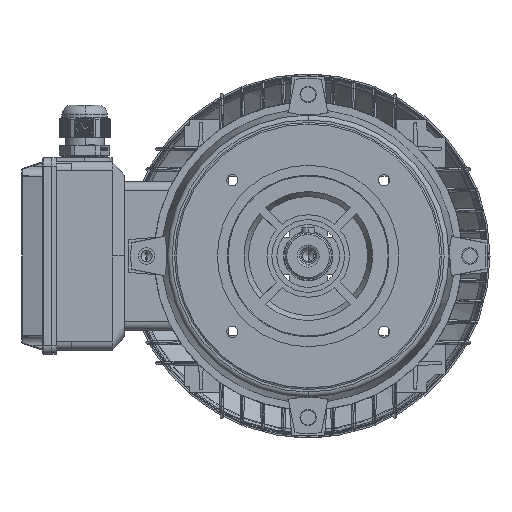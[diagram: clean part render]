
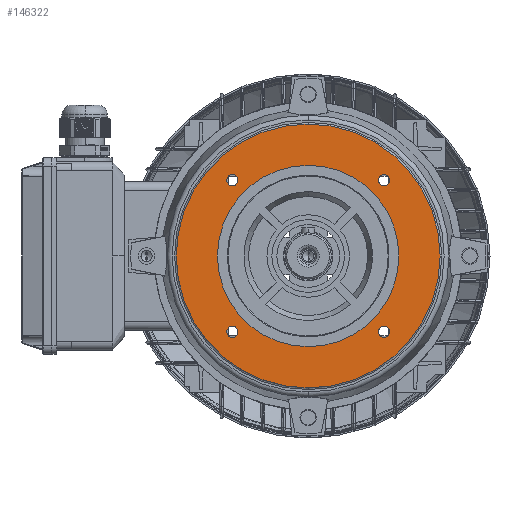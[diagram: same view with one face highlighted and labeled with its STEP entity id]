
A CAD part, left-side view. The second image highlights one B-rep face of the part: STEP entity #146322.
In plain terms, the highlighted planar face has unit normal (-1, 0, 0).
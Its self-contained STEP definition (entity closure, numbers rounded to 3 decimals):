
#116263 = CIRCLE ( 'NONE', #116538, 3.4 ) ;
#116538 = AXIS2_PLACEMENT_3D ( 'NONE', #116540, #116539, #116544 ) ;
#116539 = DIRECTION ( 'NONE',  ( 1., 0., 0. ) ) ;
#116540 = CARTESIAN_POINT ( 'NONE',  ( -16., -45.962, -45.962 ) ) ;
#116544 = DIRECTION ( 'NONE',  ( 0., 0., -1. ) ) ;
#117060 = CARTESIAN_POINT ( 'NONE',  ( -16., 45.962, 42.562 ) ) ;
#117109 = CARTESIAN_POINT ( 'NONE',  ( -16., -45.962, 49.362 ) ) ;
#117127 = CARTESIAN_POINT ( 'NONE',  ( -16., 45.962, 49.362 ) ) ;
#117176 = DIRECTION ( 'NONE',  ( 0., 0., -1. ) ) ;
#117177 = DIRECTION ( 'NONE',  ( 1., 0., 0. ) ) ;
#117178 = CARTESIAN_POINT ( 'NONE',  ( -16., 45.962, 45.962 ) ) ;
#117179 = AXIS2_PLACEMENT_3D ( 'NONE', #117178, #117177, #117176 ) ;
#117183 = CIRCLE ( 'NONE', #117179, 3.4 ) ;
#117199 = CARTESIAN_POINT ( 'NONE',  ( -16., -45.962, 45.962 ) ) ;
#117201 = CARTESIAN_POINT ( 'NONE',  ( -16., -45.962, 42.562 ) ) ;
#117204 = CIRCLE ( 'NONE', #117256, 3.4 ) ;
#117254 = DIRECTION ( 'NONE',  ( 0., 0., -1. ) ) ;
#117255 = DIRECTION ( 'NONE',  ( 1., 0., 0. ) ) ;
#117256 = AXIS2_PLACEMENT_3D ( 'NONE', #117199, #117255, #117254 ) ;
#117422 = CARTESIAN_POINT ( 'NONE',  ( -16., -45.962, -49.362 ) ) ;
#117428 = CARTESIAN_POINT ( 'NONE',  ( -16., -45.962, -42.562 ) ) ;
#118071 = CARTESIAN_POINT ( 'NONE',  ( -16., 45.962, -45.962 ) ) ;
#118072 = CIRCLE ( 'NONE', #118126, 3.4 ) ;
#118118 = CARTESIAN_POINT ( 'NONE',  ( -16., 45.962, -42.562 ) ) ;
#118120 = DIRECTION ( 'NONE',  ( 0., 0., -1. ) ) ;
#118121 = DIRECTION ( 'NONE',  ( 1., 0., 0. ) ) ;
#118126 = AXIS2_PLACEMENT_3D ( 'NONE', #118071, #118121, #118120 ) ;
#118279 = CARTESIAN_POINT ( 'NONE',  ( -16., 45.962, -49.362 ) ) ;
#118669 = CARTESIAN_POINT ( 'NONE',  ( -16., 0., 55. ) ) ;
#118677 = CARTESIAN_POINT ( 'NONE',  ( -16., 0., -55. ) ) ;
#118682 = DIRECTION ( 'NONE',  ( 0., 0., 1. ) ) ;
#118683 = DIRECTION ( 'NONE',  ( -1., 0., 0. ) ) ;
#118684 = CARTESIAN_POINT ( 'NONE',  ( -16., 0., 0. ) ) ;
#118694 = CIRCLE ( 'NONE', #118705, 55. ) ;
#118705 = AXIS2_PLACEMENT_3D ( 'NONE', #118684, #118683, #118682 ) ;
#118758 = CARTESIAN_POINT ( 'NONE',  ( -16., 0., -80. ) ) ;
#118777 = DIRECTION ( 'NONE',  ( 0., 0., 1. ) ) ;
#118778 = DIRECTION ( 'NONE',  ( -1., 0., 0. ) ) ;
#118779 = CARTESIAN_POINT ( 'NONE',  ( -16., 0., 0. ) ) ;
#118780 = AXIS2_PLACEMENT_3D ( 'NONE', #118779, #118778, #118777 ) ;
#118788 = CIRCLE ( 'NONE', #118780, 80. ) ;
#118801 = CARTESIAN_POINT ( 'NONE',  ( -16., 0., 80. ) ) ;
#133873 = CIRCLE ( 'NONE', #133877, 3.4 ) ;
#133877 = AXIS2_PLACEMENT_3D ( 'NONE', #133878, #133936, #133935 ) ;
#133878 = CARTESIAN_POINT ( 'NONE',  ( -16., 45.962, 45.962 ) ) ;
#133928 = DIRECTION ( 'NONE',  ( 0., 0., 1. ) ) ;
#133929 = DIRECTION ( 'NONE',  ( -1., 0., 0. ) ) ;
#133930 = CARTESIAN_POINT ( 'NONE',  ( -16., 0., 0. ) ) ;
#133931 = AXIS2_PLACEMENT_3D ( 'NONE', #133930, #133929, #133928 ) ;
#133935 = DIRECTION ( 'NONE',  ( 0., 0., -1. ) ) ;
#133936 = DIRECTION ( 'NONE',  ( 1., 0., 0. ) ) ;
#133937 = CIRCLE ( 'NONE', #133931, 80. ) ;
#133944 = FACE_BOUND ( 'NONE', #146315, .T. ) ;
#133945 = FACE_BOUND ( 'NONE', #146300, .T. ) ;
#133952 = FACE_OUTER_BOUND ( 'NONE', #146337, .T. ) ;
#133954 = FACE_BOUND ( 'NONE', #146335, .T. ) ;
#133955 = FACE_BOUND ( 'NONE', #146309, .T. ) ;
#133957 = PLANE ( 'NONE',  #133959 ) ;
#133958 = FACE_BOUND ( 'NONE', #146316, .T. ) ;
#133959 = AXIS2_PLACEMENT_3D ( 'NONE', #134018, #134017, #134016 ) ;
#133989 = CARTESIAN_POINT ( 'NONE',  ( -16., -45.962, -45.962 ) ) ;
#133994 = DIRECTION ( 'NONE',  ( 0., 0., -1. ) ) ;
#133995 = DIRECTION ( 'NONE',  ( 1., 0., 0. ) ) ;
#133998 = AXIS2_PLACEMENT_3D ( 'NONE', #133989, #133995, #133994 ) ;
#133999 = DIRECTION ( 'NONE',  ( 0., 0., -1. ) ) ;
#134000 = DIRECTION ( 'NONE',  ( 1., 0., 0. ) ) ;
#134001 = CARTESIAN_POINT ( 'NONE',  ( -16., -45.962, 45.962 ) ) ;
#134002 = AXIS2_PLACEMENT_3D ( 'NONE', #134001, #134000, #133999 ) ;
#134004 = CIRCLE ( 'NONE', #134002, 3.4 ) ;
#134007 = CIRCLE ( 'NONE', #133998, 3.4 ) ;
#134016 = DIRECTION ( 'NONE',  ( 0., 0., -1. ) ) ;
#134017 = DIRECTION ( 'NONE',  ( 1., 0., 0. ) ) ;
#134018 = CARTESIAN_POINT ( 'NONE',  ( -16., 55., 0. ) ) ;
#134061 = AXIS2_PLACEMENT_3D ( 'NONE', #134114, #134113, #134112 ) ;
#134067 = CIRCLE ( 'NONE', #134061, 3.4 ) ;
#134112 = DIRECTION ( 'NONE',  ( 0., 0., -1. ) ) ;
#134113 = DIRECTION ( 'NONE',  ( 1., 0., 0. ) ) ;
#134114 = CARTESIAN_POINT ( 'NONE',  ( -16., 45.962, -45.962 ) ) ;
#134115 = CARTESIAN_POINT ( 'NONE',  ( -16., 0., 0. ) ) ;
#134174 = DIRECTION ( 'NONE',  ( 0., 0., 1. ) ) ;
#134175 = DIRECTION ( 'NONE',  ( -1., 0., 0. ) ) ;
#134177 = AXIS2_PLACEMENT_3D ( 'NONE', #134115, #134175, #134174 ) ;
#134180 = CIRCLE ( 'NONE', #134177, 55. ) ;
#142532 = VERTEX_POINT ( 'NONE', #117127 ) ;
#142533 = VERTEX_POINT ( 'NONE', #117060 ) ;
#142538 = VERTEX_POINT ( 'NONE', #117109 ) ;
#142565 = EDGE_CURVE ( 'NONE', #142532, #142533, #117183, .T. ) ;
#142588 = EDGE_CURVE ( 'NONE', #142538, #142591, #117204, .T. ) ;
#142591 = VERTEX_POINT ( 'NONE', #117201 ) ;
#142647 = EDGE_CURVE ( 'NONE', #142653, #142654, #116263, .T. ) ;
#142653 = VERTEX_POINT ( 'NONE', #117428 ) ;
#142654 = VERTEX_POINT ( 'NONE', #117422 ) ;
#142954 = EDGE_CURVE ( 'NONE', #142959, #143028, #118072, .T. ) ;
#142959 = VERTEX_POINT ( 'NONE', #118118 ) ;
#143028 = VERTEX_POINT ( 'NONE', #118279 ) ;
#143208 = VERTEX_POINT ( 'NONE', #118669 ) ;
#143209 = VERTEX_POINT ( 'NONE', #118677 ) ;
#143227 = EDGE_CURVE ( 'NONE', #143208, #143209, #118694, .T. ) ;
#143268 = VERTEX_POINT ( 'NONE', #118758 ) ;
#143279 = EDGE_CURVE ( 'NONE', #143281, #143268, #118788, .T. ) ;
#143281 = VERTEX_POINT ( 'NONE', #118801 ) ;
#146300 = EDGE_LOOP ( 'NONE', ( #146376, #146423 ) ) ;
#146305 = EDGE_CURVE ( 'NONE', #142533, #142532, #133873, .T. ) ;
#146306 = ORIENTED_EDGE ( 'NONE', *, *, #142588, .T. ) ;
#146308 = EDGE_CURVE ( 'NONE', #143268, #143281, #133937, .T. ) ;
#146309 = EDGE_LOOP ( 'NONE', ( #146327, #146361 ) ) ;
#146314 = ORIENTED_EDGE ( 'NONE', *, *, #142565, .T. ) ;
#146315 = EDGE_LOOP ( 'NONE', ( #146326, #146314 ) ) ;
#146316 = EDGE_LOOP ( 'NONE', ( #146334, #146306 ) ) ;
#146322 = ADVANCED_FACE ( 'NONE', ( #133944, #133958, #133955, #133954, #133952, #133945 ), #133957, .F. ) ;
#146326 = ORIENTED_EDGE ( 'NONE', *, *, #146305, .T. ) ;
#146327 = ORIENTED_EDGE ( 'NONE', *, *, #146333, .T. ) ;
#146330 = EDGE_CURVE ( 'NONE', #142591, #142538, #134004, .T. ) ;
#146333 = EDGE_CURVE ( 'NONE', #142654, #142653, #134007, .T. ) ;
#146334 = ORIENTED_EDGE ( 'NONE', *, *, #146330, .T. ) ;
#146335 = EDGE_LOOP ( 'NONE', ( #146336, #146368 ) ) ;
#146336 = ORIENTED_EDGE ( 'NONE', *, *, #146366, .T. ) ;
#146337 = EDGE_LOOP ( 'NONE', ( #146364, #146370 ) ) ;
#146361 = ORIENTED_EDGE ( 'NONE', *, *, #142647, .T. ) ;
#146364 = ORIENTED_EDGE ( 'NONE', *, *, #143279, .T. ) ;
#146366 = EDGE_CURVE ( 'NONE', #143028, #142959, #134067, .T. ) ;
#146368 = ORIENTED_EDGE ( 'NONE', *, *, #142954, .T. ) ;
#146370 = ORIENTED_EDGE ( 'NONE', *, *, #146308, .T. ) ;
#146376 = ORIENTED_EDGE ( 'NONE', *, *, #143227, .F. ) ;
#146378 = EDGE_CURVE ( 'NONE', #143209, #143208, #134180, .T. ) ;
#146423 = ORIENTED_EDGE ( 'NONE', *, *, #146378, .F. ) ;
